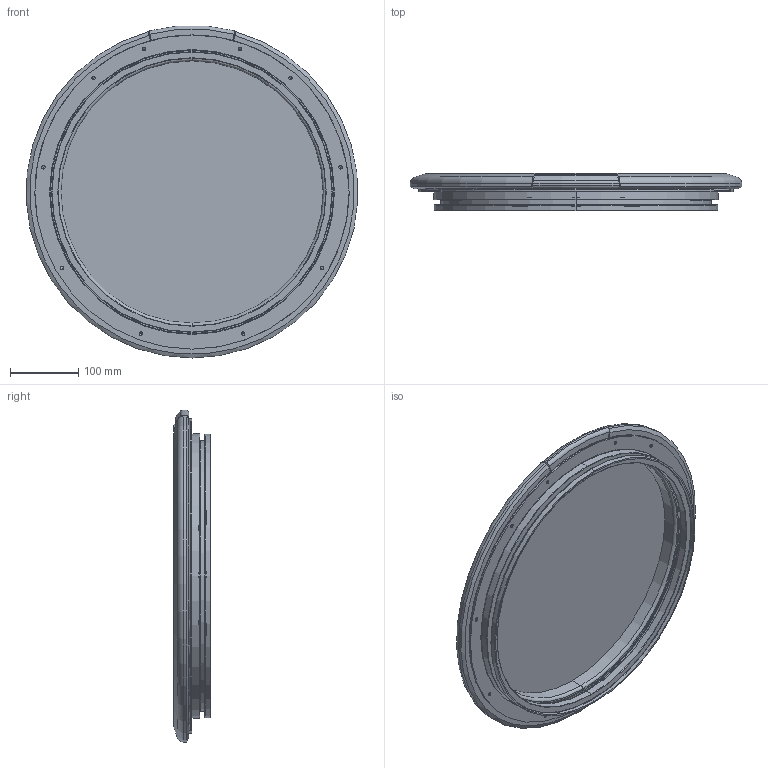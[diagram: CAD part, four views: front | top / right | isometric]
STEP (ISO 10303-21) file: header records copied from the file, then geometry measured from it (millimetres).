
FILE_DESCRIPTION (( 'STEP AP203' ), '1' );
FILE_NAME ('19.724.01.STEP', '2023-07-18T14:58:17', ( '' ), ( '' ), 'SwSTEP 2.0', 'SolidWorks 2014', '' );
FILE_SCHEMA (( 'CONFIG_CONTROL_DESIGN' ));
Length unit declared in the file: millimetre
Products named in the file (3): 19.724.01_2; 19.724.01; 19.724.01_1
Assembly tree (2 placements, depth 2):
  19.724.01
    19.724.01_1
    19.724.01_2
Bounding box: 485.4 x 53.5 x 486.07 mm (x, y, z)
Volume: 2155745.2 mm3; surface area: 686558.2 mm2
Topology: 2 solids, 2 shells, 165 faces, 374 edges, 226 vertices
Faces by surface type: cylinder 65, torus 44, cone 31, plane 25
Entity records: 5085 total; most frequent: DIRECTION 956, CARTESIAN_POINT 844, ORIENTED_EDGE 748, AXIS2_PLACEMENT_3D 420, EDGE_CURVE 374, CIRCLE 250, VERTEX_POINT 226, EDGE_LOOP 200
